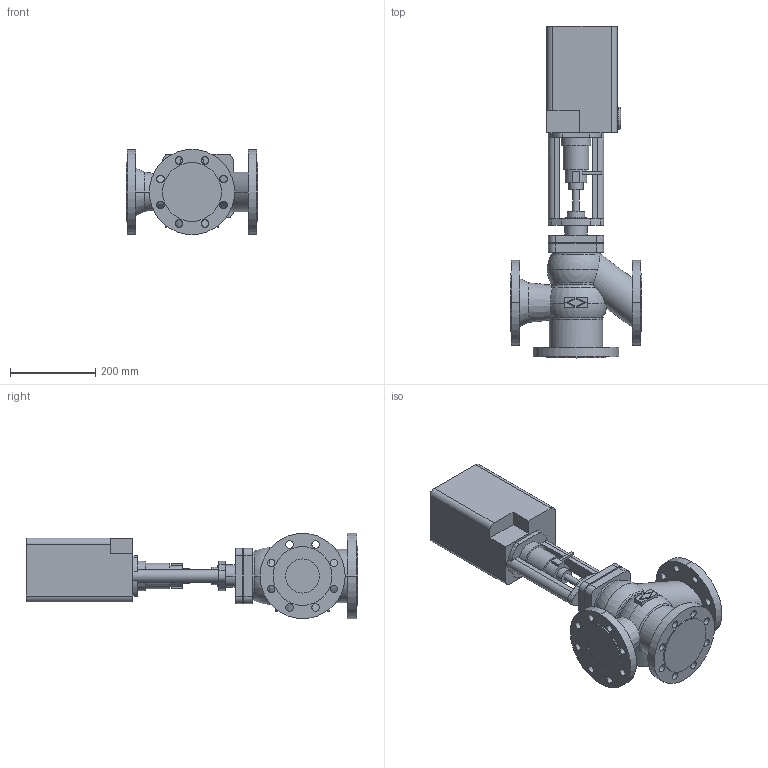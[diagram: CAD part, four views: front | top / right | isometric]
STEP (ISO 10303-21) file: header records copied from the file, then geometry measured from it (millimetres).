
FILE_DESCRIPTION(('OneSpaceDesigner STEP Export'),'2;1');
FILE_NAME('c000002392.stp','2006-09-19T11:58:09',(''),(''),'OneSpace Designer STEP processor for AP214 (Solid Model)','OneSpace Designer 13.20A 18-Aug-2005 (C) CoCreate Software GmbH','');
FILE_SCHEMA(('AUTOMOTIVE_DESIGN { 1 0 10303 214 1 1 1 1 }'));
Length unit declared in the file: millimetre
Products named in the file (2): 1; 2
Bounding box: 310 x 779.5 x 200 mm (x, y, z)
Volume: 13840133.9 mm3; surface area: 705612.8 mm2
Topology: 2 solids, 2 shells, 231 faces, 602 edges, 395 vertices
Faces by surface type: cylinder 118, plane 90, torus 15, sphere 4, cone 4
Entity records: 6736 total; most frequent: CARTESIAN_POINT 1411, ORIENTED_EDGE 1196, DIRECTION 973, EDGE_CURVE 598, VERTEX_POINT 395, AXIS2_PLACEMENT_3D 347, EDGE_LOOP 303, VECTOR 279
